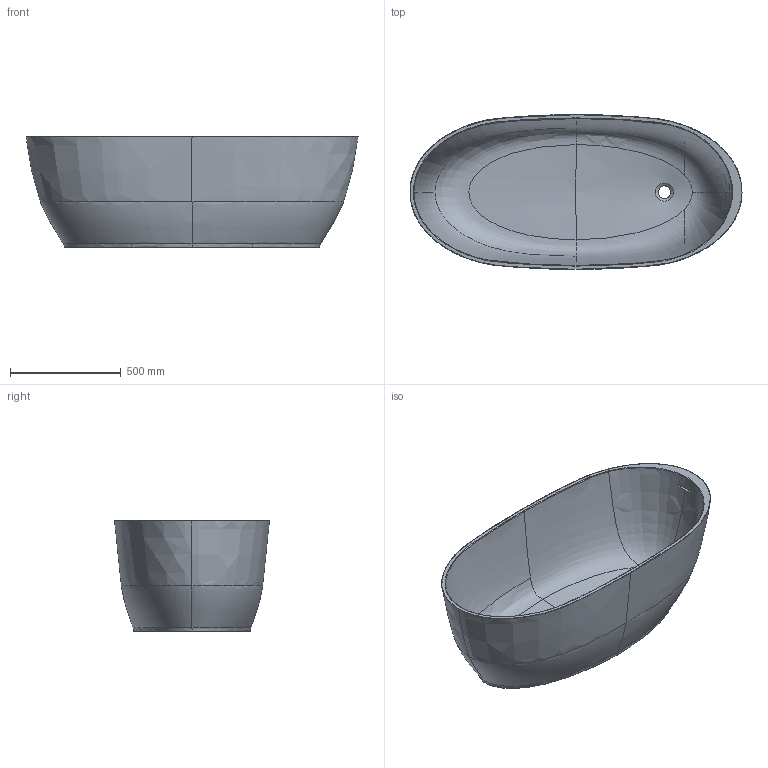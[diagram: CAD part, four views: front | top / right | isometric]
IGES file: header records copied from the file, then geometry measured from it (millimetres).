
Start section: Data from Parasolid IGES Translator 22.0.50, Copyright(c) 2006 Siemens P LM Software. All Rights Reserved.
Global section: file name: noorth-bathtub-H50 D70 W150_5661.igs; native system: By Siemens PLM Incorporated; preprocessor: XPlus GENERIC/IGES 22.0.50; author: Noname; organization: Noname; date: 20250706.153442; units: metre
Bounding box: 1500.03 x 699.95 x 500 mm (x, y, z)
Volume: 47657628.4 mm3; surface area: 4352024.8 mm2
Topology: 1 solids, 1 shells, 130 faces, 361 edges, 218 vertices
Faces by surface type: bspline 84, cylinder 20, plane 17, torus 5, cone 2, sphere 2
Full cylindrical faces by diameter (mm): 57 x1
